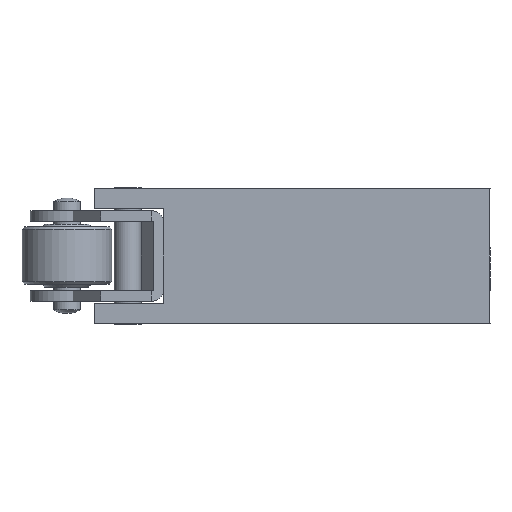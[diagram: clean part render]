
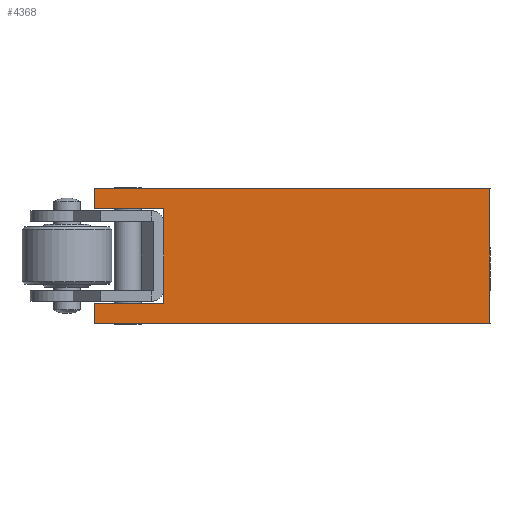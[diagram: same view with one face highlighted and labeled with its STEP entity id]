
A CAD part, front view. The second image highlights one B-rep face of the part: STEP entity #4368.
In plain terms, the highlighted planar face has unit normal (0, -1, 0).
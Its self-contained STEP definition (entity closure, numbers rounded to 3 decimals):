
#390=LINE('',#6220,#554);
#391=LINE('',#6223,#555);
#392=LINE('',#6225,#556);
#393=LINE('',#6227,#557);
#394=LINE('',#6229,#558);
#395=LINE('',#6231,#559);
#396=LINE('',#6233,#560);
#397=LINE('',#6235,#561);
#554=VECTOR('',#5267,1000.);
#555=VECTOR('',#5268,1000.);
#556=VECTOR('',#5269,1000.);
#557=VECTOR('',#5270,1000.);
#558=VECTOR('',#5271,1000.);
#559=VECTOR('',#5272,1000.);
#560=VECTOR('',#5273,1000.);
#561=VECTOR('',#5274,1000.);
#724=PLANE('',#4818);
#938=ORIENTED_EDGE('',*,*,#2136,.T.);
#939=ORIENTED_EDGE('',*,*,#2137,.T.);
#940=ORIENTED_EDGE('',*,*,#2138,.F.);
#941=ORIENTED_EDGE('',*,*,#2139,.F.);
#942=ORIENTED_EDGE('',*,*,#2140,.F.);
#943=ORIENTED_EDGE('',*,*,#2141,.F.);
#944=ORIENTED_EDGE('',*,*,#2142,.T.);
#945=ORIENTED_EDGE('',*,*,#2143,.F.);
#2136=EDGE_CURVE('',#2744,#2745,#390,.T.);
#2137=EDGE_CURVE('',#2745,#2746,#391,.T.);
#2138=EDGE_CURVE('',#2747,#2746,#392,.T.);
#2139=EDGE_CURVE('',#2748,#2747,#393,.T.);
#2140=EDGE_CURVE('',#2749,#2748,#394,.T.);
#2141=EDGE_CURVE('',#2750,#2749,#395,.T.);
#2142=EDGE_CURVE('',#2750,#2751,#396,.T.);
#2143=EDGE_CURVE('',#2744,#2751,#397,.T.);
#2744=VERTEX_POINT('',#6221);
#2745=VERTEX_POINT('',#6222);
#2746=VERTEX_POINT('',#6224);
#2747=VERTEX_POINT('',#6226);
#2748=VERTEX_POINT('',#6228);
#2749=VERTEX_POINT('',#6230);
#2750=VERTEX_POINT('',#6232);
#2751=VERTEX_POINT('',#6234);
#3373=EDGE_LOOP('',(#938,#939,#940,#941,#942,#943,#944,#945));
#3855=FACE_BOUND('',#3373,.T.);
#4368=ADVANCED_FACE('',(#3855),#724,.T.);
#4818=AXIS2_PLACEMENT_3D('',#6219,#5265,#5266);
#5265=DIRECTION('',(0.,-1.,0.));
#5266=DIRECTION('',(1.,0.,0.));
#5267=DIRECTION('',(1.,0.,0.));
#5268=DIRECTION('',(0.,0.,1.));
#5269=DIRECTION('',(1.,0.,0.));
#5270=DIRECTION('',(0.,0.,1.));
#5271=DIRECTION('',(-1.,0.,0.));
#5272=DIRECTION('',(0.,0.,1.));
#5273=DIRECTION('',(-1.,0.,0.));
#5274=DIRECTION('',(0.,0.,1.));
#6219=CARTESIAN_POINT('',(-44.,-12.5,-7.5));
#6220=CARTESIAN_POINT('',(-44.,-12.5,-7.5));
#6221=CARTESIAN_POINT('',(-44.,-12.5,-7.5));
#6222=CARTESIAN_POINT('',(0.,-12.5,-7.5));
#6223=CARTESIAN_POINT('',(0.,-12.5,-7.5));
#6224=CARTESIAN_POINT('',(0.,-12.5,7.5));
#6225=CARTESIAN_POINT('',(-44.,-12.5,7.5));
#6226=CARTESIAN_POINT('',(-44.,-12.5,7.5));
#6227=CARTESIAN_POINT('',(-44.,-12.5,5.25));
#6228=CARTESIAN_POINT('',(-44.,-12.5,5.25));
#6229=CARTESIAN_POINT('',(-35.2,-12.5,5.25));
#6230=CARTESIAN_POINT('',(-36.297,-12.5,5.25));
#6231=CARTESIAN_POINT('',(-36.297,-12.5,-5.25));
#6232=CARTESIAN_POINT('',(-36.297,-12.5,-5.25));
#6233=CARTESIAN_POINT('',(-35.2,-12.5,-5.25));
#6234=CARTESIAN_POINT('',(-44.,-12.5,-5.25));
#6235=CARTESIAN_POINT('',(-44.,-12.5,-7.5));
